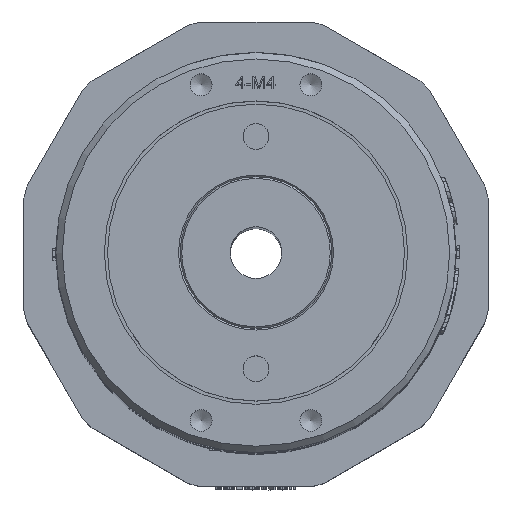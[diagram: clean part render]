
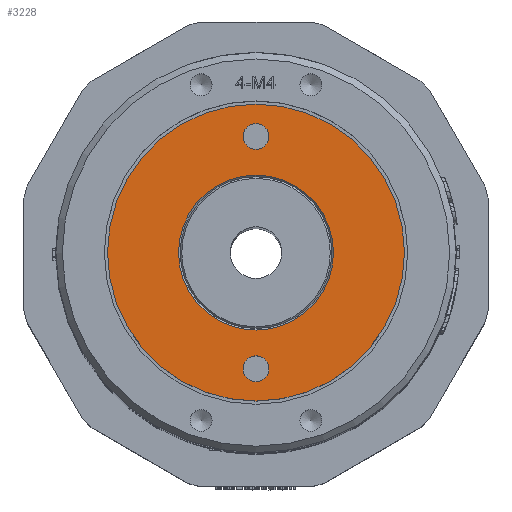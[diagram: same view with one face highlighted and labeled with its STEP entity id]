
A CAD part, top view. The second image highlights one B-rep face of the part: STEP entity #3228.
In plain terms, the highlighted planar face has unit normal (0, 0, 1).
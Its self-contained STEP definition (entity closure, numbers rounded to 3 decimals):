
#296=FACE_BOUND('',#7713,.T.);
#297=FACE_BOUND('',#7714,.T.);
#298=FACE_BOUND('',#7715,.T.);
#299=FACE_BOUND('',#7716,.T.);
#881=CIRCLE('',#25348,2.);
#882=CIRCLE('',#25351,2.);
#884=CIRCLE('',#25355,12.);
#888=CIRCLE('',#25361,23.);
#1620=PLANE('',#25364);
#3228=ADVANCED_FACE('',(#296,#297,#298,#299),#1620,.F.);
#7713=EDGE_LOOP('',(#12041));
#7714=EDGE_LOOP('',(#12042));
#7715=EDGE_LOOP('',(#12043));
#7716=EDGE_LOOP('',(#12044));
#12041=ORIENTED_EDGE('',*,*,#20690,.T.);
#12042=ORIENTED_EDGE('',*,*,#20691,.T.);
#12043=ORIENTED_EDGE('',*,*,#20693,.T.);
#12044=ORIENTED_EDGE('',*,*,#20697,.F.);
#17370=VERTEX_POINT('',#45987);
#17371=VERTEX_POINT('',#45991);
#17373=VERTEX_POINT('',#45997);
#17377=VERTEX_POINT('',#46007);
#20690=EDGE_CURVE('',#17370,#17370,#881,.T.);
#20691=EDGE_CURVE('',#17371,#17371,#882,.T.);
#20693=EDGE_CURVE('',#17373,#17373,#884,.T.);
#20697=EDGE_CURVE('',#17377,#17377,#888,.T.);
#25348=AXIS2_PLACEMENT_3D('',#45986,#27945,#27946);
#25351=AXIS2_PLACEMENT_3D('',#45990,#27951,#27952);
#25355=AXIS2_PLACEMENT_3D('',#45996,#27959,#27960);
#25361=AXIS2_PLACEMENT_3D('',#46006,#27971,#27972);
#25364=AXIS2_PLACEMENT_3D('',#46010,#27977,#27978);
#27945=DIRECTION('',(0.,0.,-1.));
#27946=DIRECTION('',(-1.,0.,0.));
#27951=DIRECTION('',(0.,0.,-1.));
#27952=DIRECTION('',(-1.,0.,0.));
#27959=DIRECTION('',(0.,0.,-1.));
#27960=DIRECTION('',(-1.,0.,0.));
#27971=DIRECTION('',(0.,0.,-1.));
#27972=DIRECTION('',(-1.,0.,0.));
#27977=DIRECTION('',(0.,0.,-1.));
#27978=DIRECTION('',(-1.,0.,0.));
#45986=CARTESIAN_POINT('',(0.,18.,176.5));
#45987=CARTESIAN_POINT('',(-2.,18.,176.5));
#45990=CARTESIAN_POINT('',(0.,-18.,176.5));
#45991=CARTESIAN_POINT('',(-2.,-18.,176.5));
#45996=CARTESIAN_POINT('',(0.,0.,176.5));
#45997=CARTESIAN_POINT('',(-12.,0.,176.5));
#46006=CARTESIAN_POINT('',(0.,0.,176.5));
#46007=CARTESIAN_POINT('',(-23.,0.,176.5));
#46010=CARTESIAN_POINT('',(0.,0.,176.5));
